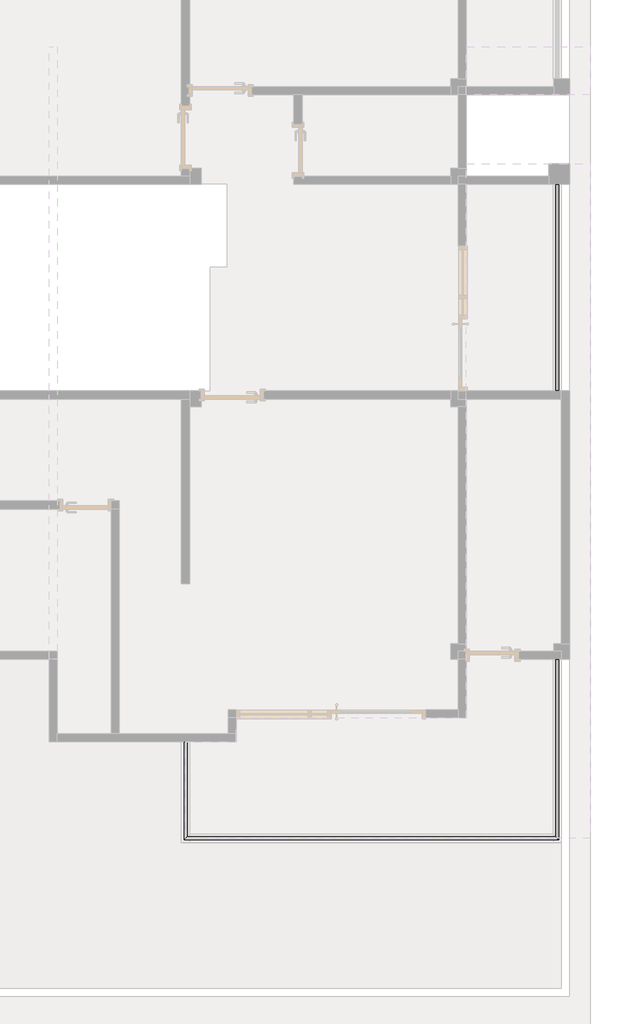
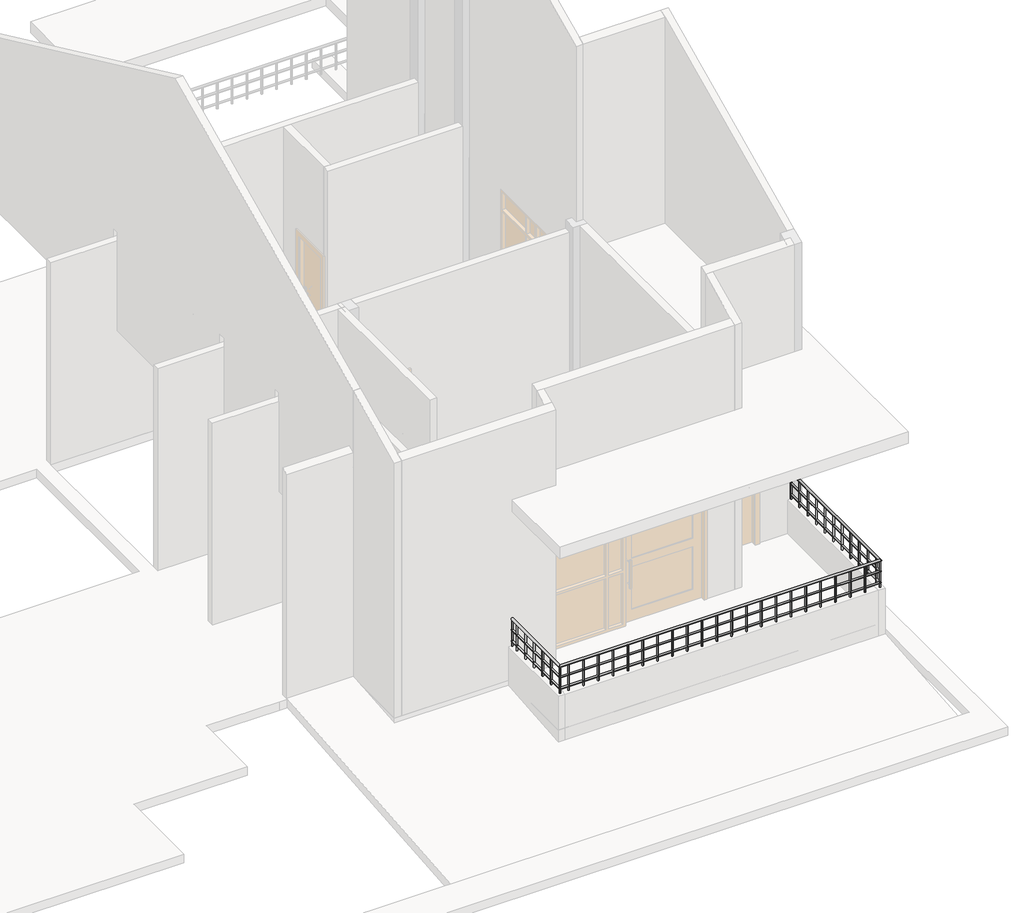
# One storey, part 5 of 6: 2 railings.
"""IFC4 building model written with IfcOpenShell, lengths in millimetres."""

from ifc_helpers import new_model, si_unit, point, frame, frame_2d, origin, place, context, project, spatial, circle_curve, ellipse_curve, trimmed, segment, composite_curve, outline, extrude, element, save
from ifc_brep_helpers import plane_surface, cylinder_surface, advanced_brep

model = new_model("IFC4")

# Units and contexts
model_context = context("Model", 3, world=origin())
ifc_project = project(units=[si_unit("LENGTHUNIT", "METRE", prefix="MILLI")], contexts=[model_context])

# Site, building, storey
site = spatial("IfcSite", under=ifc_project)
building = spatial("IfcBuilding", under=site)
storey = spatial("IfcBuildingStorey", under=building, Name="标高 2", Elevation=3900.0)

# Railings
placement = place(None, origin())
element("IfcRailing", 1, ObjectType="500 圆管", at=placement, inside=storey, context=model_context, shape_type="SweptSolid", body=[
    extrude(outline(composite_curve([segment(trimmed(circle_curve(frame_2d((4980.0, 9735.9706096)), 20.0), [point((4980.0, 9715.9706096))], [point((4980.0, 9755.9706096))], False, "CARTESIAN"), True, "CONTINUOUS"), segment(trimmed(circle_curve(frame_2d((4980.0, 9735.9706096)), 20.0), [point((4980.0, 9755.9706096))], [point((4980.0, 9715.9706096))], False, "CARTESIAN"), True, "CONTINUOUS")], self_intersect=False)), frame((0.0, 5888.7732284, 0.0), z_axis=(0.0, 1.0, 0.0), x_axis=(0.0, 0.0, 1.0)), (0.0, 0.0, 1.0), 3000.0),
    extrude(outline(composite_curve([segment(trimmed(circle_curve(frame_2d((4785.0, 9735.9706096)), 15.0), [point((4785.0, 9720.9706096))], [point((4785.0, 9750.9706096))], False, "CARTESIAN"), True, "CONTINUOUS"), segment(trimmed(circle_curve(frame_2d((4785.0, 9735.9706096)), 15.0), [point((4785.0, 9750.9706096))], [point((4785.0, 9720.9706096))], False, "CARTESIAN"), True, "CONTINUOUS")], self_intersect=False)), frame((0.0, 5888.7732284, 0.0), z_axis=(0.0, 1.0, 0.0), x_axis=(0.0, 0.0, 1.0)), (0.0, 0.0, 1.0), 3000.0),
    extrude(outline(composite_curve([segment(trimmed(circle_curve(frame_2d((4585.0, 9735.9706096)), 15.0), [point((4585.0, 9720.9706096))], [point((4585.0, 9750.9706096))], False, "CARTESIAN"), True, "CONTINUOUS"), segment(trimmed(circle_curve(frame_2d((4585.0, 9735.9706096)), 15.0), [point((4585.0, 9750.9706096))], [point((4585.0, 9720.9706096))], False, "CARTESIAN"), True, "CONTINUOUS")], self_intersect=False)), frame((0.0, 5888.7732284, 0.0), z_axis=(0.0, 1.0, 0.0), x_axis=(0.0, 0.0, 1.0)), (0.0, 0.0, 1.0), 3000.0),
    extrude(outline(composite_curve([segment(trimmed(circle_curve(frame_2d((9735.9706096, 6138.7732284)), 12.5), [point((9723.4706096, 6138.7732284))], [point((9748.4706096, 6138.7732284))], False, "CARTESIAN"), True, "CONTINUOUS"), segment(trimmed(circle_curve(frame_2d((9735.9706096, 6138.7732284)), 12.5), [point((9748.4706096, 6138.7732284))], [point((9723.4706096, 6138.7732284))], False, "CARTESIAN"), True, "CONTINUOUS")], self_intersect=False)), frame((0.0, 0.0, 4500.0), z_axis=(0.0, 0.0, 1.0), x_axis=(1.0, 0.0, 0.0)), (0.0, 0.0, 1.0), 460.0),
    extrude(outline(composite_curve([segment(trimmed(circle_curve(frame_2d((9735.9706096, 6388.7732284)), 12.5), [point((9723.4706096, 6388.7732284))], [point((9748.4706096, 6388.7732284))], False, "CARTESIAN"), True, "CONTINUOUS"), segment(trimmed(circle_curve(frame_2d((9735.9706096, 6388.7732284)), 12.5), [point((9748.4706096, 6388.7732284))], [point((9723.4706096, 6388.7732284))], False, "CARTESIAN"), True, "CONTINUOUS")], self_intersect=False)), frame((0.0, 0.0, 4500.0), z_axis=(0.0, 0.0, 1.0), x_axis=(1.0, 0.0, 0.0)), (0.0, 0.0, 1.0), 460.0),
    extrude(outline(composite_curve([segment(trimmed(circle_curve(frame_2d((9735.9706096, 6638.7732284)), 12.5), [point((9723.4706096, 6638.7732284))], [point((9748.4706096, 6638.7732284))], False, "CARTESIAN"), True, "CONTINUOUS"), segment(trimmed(circle_curve(frame_2d((9735.9706096, 6638.7732284)), 12.5), [point((9748.4706096, 6638.7732284))], [point((9723.4706096, 6638.7732284))], False, "CARTESIAN"), True, "CONTINUOUS")], self_intersect=False)), frame((0.0, 0.0, 4500.0), z_axis=(0.0, 0.0, 1.0), x_axis=(1.0, 0.0, 0.0)), (0.0, 0.0, 1.0), 460.0),
    extrude(outline(composite_curve([segment(trimmed(circle_curve(frame_2d((9735.9706096, 6888.7732284)), 12.5), [point((9723.4706096, 6888.7732284))], [point((9748.4706096, 6888.7732284))], False, "CARTESIAN"), True, "CONTINUOUS"), segment(trimmed(circle_curve(frame_2d((9735.9706096, 6888.7732284)), 12.5), [point((9748.4706096, 6888.7732284))], [point((9723.4706096, 6888.7732284))], False, "CARTESIAN"), True, "CONTINUOUS")], self_intersect=False)), frame((0.0, 0.0, 4500.0), z_axis=(0.0, 0.0, 1.0), x_axis=(1.0, 0.0, 0.0)), (0.0, 0.0, 1.0), 460.0),
    extrude(outline(composite_curve([segment(trimmed(circle_curve(frame_2d((9735.9706096, 7138.7732284)), 12.5), [point((9723.4706096, 7138.7732284))], [point((9748.4706096, 7138.7732284))], False, "CARTESIAN"), True, "CONTINUOUS"), segment(trimmed(circle_curve(frame_2d((9735.9706096, 7138.7732284)), 12.5), [point((9748.4706096, 7138.7732284))], [point((9723.4706096, 7138.7732284))], False, "CARTESIAN"), True, "CONTINUOUS")], self_intersect=False)), frame((0.0, 0.0, 4500.0), z_axis=(0.0, 0.0, 1.0), x_axis=(1.0, 0.0, 0.0)), (0.0, 0.0, 1.0), 460.0),
    extrude(outline(composite_curve([segment(trimmed(circle_curve(frame_2d((9735.9706096, 7388.7732284)), 12.5), [point((9723.4706096, 7388.7732284))], [point((9748.4706096, 7388.7732284))], False, "CARTESIAN"), True, "CONTINUOUS"), segment(trimmed(circle_curve(frame_2d((9735.9706096, 7388.7732284)), 12.5), [point((9748.4706096, 7388.7732284))], [point((9723.4706096, 7388.7732284))], False, "CARTESIAN"), True, "CONTINUOUS")], self_intersect=False)), frame((0.0, 0.0, 4500.0), z_axis=(0.0, 0.0, 1.0), x_axis=(1.0, 0.0, 0.0)), (0.0, 0.0, 1.0), 460.0),
    extrude(outline(composite_curve([segment(trimmed(circle_curve(frame_2d((9735.9706096, 7638.7732284)), 12.5), [point((9723.4706096, 7638.7732284))], [point((9748.4706096, 7638.7732284))], False, "CARTESIAN"), True, "CONTINUOUS"), segment(trimmed(circle_curve(frame_2d((9735.9706096, 7638.7732284)), 12.5), [point((9748.4706096, 7638.7732284))], [point((9723.4706096, 7638.7732284))], False, "CARTESIAN"), True, "CONTINUOUS")], self_intersect=False)), frame((0.0, 0.0, 4500.0), z_axis=(0.0, 0.0, 1.0), x_axis=(1.0, 0.0, 0.0)), (0.0, 0.0, 1.0), 460.0),
    extrude(outline(composite_curve([segment(trimmed(circle_curve(frame_2d((9735.9706096, 7888.7732284)), 12.5), [point((9723.4706096, 7888.7732284))], [point((9748.4706096, 7888.7732284))], False, "CARTESIAN"), True, "CONTINUOUS"), segment(trimmed(circle_curve(frame_2d((9735.9706096, 7888.7732284)), 12.5), [point((9748.4706096, 7888.7732284))], [point((9723.4706096, 7888.7732284))], False, "CARTESIAN"), True, "CONTINUOUS")], self_intersect=False)), frame((0.0, 0.0, 4500.0), z_axis=(0.0, 0.0, 1.0), x_axis=(1.0, 0.0, 0.0)), (0.0, 0.0, 1.0), 460.0),
    extrude(outline(composite_curve([segment(trimmed(circle_curve(frame_2d((9735.9706096, 8138.7732284)), 12.5), [point((9723.4706096, 8138.7732284))], [point((9748.4706096, 8138.7732284))], False, "CARTESIAN"), True, "CONTINUOUS"), segment(trimmed(circle_curve(frame_2d((9735.9706096, 8138.7732284)), 12.5), [point((9748.4706096, 8138.7732284))], [point((9723.4706096, 8138.7732284))], False, "CARTESIAN"), True, "CONTINUOUS")], self_intersect=False)), frame((0.0, 0.0, 4500.0), z_axis=(0.0, 0.0, 1.0), x_axis=(1.0, 0.0, 0.0)), (0.0, 0.0, 1.0), 460.0),
    extrude(outline(composite_curve([segment(trimmed(circle_curve(frame_2d((9735.9706096, 8388.7732284)), 12.5), [point((9723.4706096, 8388.7732284))], [point((9748.4706096, 8388.7732284))], False, "CARTESIAN"), True, "CONTINUOUS"), segment(trimmed(circle_curve(frame_2d((9735.9706096, 8388.7732284)), 12.5), [point((9748.4706096, 8388.7732284))], [point((9723.4706096, 8388.7732284))], False, "CARTESIAN"), True, "CONTINUOUS")], self_intersect=False)), frame((0.0, 0.0, 4500.0), z_axis=(0.0, 0.0, 1.0), x_axis=(1.0, 0.0, 0.0)), (0.0, 0.0, 1.0), 460.0),
    extrude(outline(composite_curve([segment(trimmed(circle_curve(frame_2d((9735.9706096, 8638.7732284)), 12.5), [point((9723.4706096, 8638.7732284))], [point((9748.4706096, 8638.7732284))], False, "CARTESIAN"), True, "CONTINUOUS"), segment(trimmed(circle_curve(frame_2d((9735.9706096, 8638.7732284)), 12.5), [point((9748.4706096, 8638.7732284))], [point((9723.4706096, 8638.7732284))], False, "CARTESIAN"), True, "CONTINUOUS")], self_intersect=False)), frame((0.0, 0.0, 4500.0), z_axis=(0.0, 0.0, 1.0), x_axis=(1.0, 0.0, 0.0)), (0.0, 0.0, 1.0), 460.0),
    extrude(outline(composite_curve([segment(trimmed(circle_curve(frame_2d((9735.9706096, 5901.2732284)), 12.5), [point((9723.4706096, 5901.2732284))], [point((9748.4706096, 5901.2732284))], False, "CARTESIAN"), True, "CONTINUOUS"), segment(trimmed(circle_curve(frame_2d((9735.9706096, 5901.2732284)), 12.5), [point((9748.4706096, 5901.2732284))], [point((9723.4706096, 5901.2732284))], False, "CARTESIAN"), True, "CONTINUOUS")], self_intersect=False)), frame((0.0, 0.0, 4500.0), z_axis=(0.0, 0.0, 1.0), x_axis=(1.0, 0.0, 0.0)), (0.0, 0.0, 1.0), 460.0),
    extrude(outline(composite_curve([segment(trimmed(circle_curve(frame_2d((9735.9706096, 8876.2732284)), 12.5), [point((9723.4706096, 8876.2732284))], [point((9748.4706096, 8876.2732284))], False, "CARTESIAN"), True, "CONTINUOUS"), segment(trimmed(circle_curve(frame_2d((9735.9706096, 8876.2732284)), 12.5), [point((9748.4706096, 8876.2732284))], [point((9723.4706096, 8876.2732284))], False, "CARTESIAN"), True, "CONTINUOUS")], self_intersect=False)), frame((0.0, 0.0, 4500.0), z_axis=(0.0, 0.0, 1.0), x_axis=(1.0, 0.0, 0.0)), (0.0, 0.0, 1.0), 460.0),
])
element("IfcRailing", 2, ObjectType="500 圆管", at=placement, inside=storey, context=model_context, shape_type="SolidModel", body=[
    advanced_brep(
    [(9715.9706096, 1988.7732284, 4980.0), (9755.9706096, 1988.7732284, 4980.0), (9715.9706096, -591.2267716, 4980.0), (9755.9706096, -631.2267716, 4980.0), (4358.4706096, -591.2267716, 4980.0), (4318.4706096, -631.2267716, 4980.0), (4358.4706096, 788.7732284, 4980.0), (4318.4706096, 788.7732284, 4980.0)],
    [
        (0, 1, circle_curve(frame((9735.9706096, 1988.7732284, 4980.0), z_axis=(0.0, 1.0, 0.0), x_axis=(1.0, 0.0, 0.0)), 20.0)),
        (1, 0, circle_curve(frame((9735.9706096, 1988.7732284, 4980.0), z_axis=(0.0, 1.0, 0.0), x_axis=(1.0, 0.0, 0.0)), 20.0)),
        (0, 2),
        (2, 3, ellipse_curve(frame((9735.9706096, -611.2267716, 4980.0), z_axis=(0.7071067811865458, 0.7071067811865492, 0.0), x_axis=(-0.7071067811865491, 0.7071067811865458, 0.0)), 28.2842712, 20.0)),
        (3, 1),
        (3, 2, ellipse_curve(frame((9735.9706096, -611.2267716, 4980.0), z_axis=(0.7071067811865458, 0.7071067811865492, 0.0), x_axis=(-0.7071067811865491, 0.7071067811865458, 0.0)), 28.2842712, 20.0)),
        (2, 4),
        (4, 5, ellipse_curve(frame((4338.4706096, -611.2267716, 4980.0), z_axis=(0.7071067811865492, -0.7071067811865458, 0.0), x_axis=(0.7071067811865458, 0.7071067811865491, 0.0)), 28.2842712, 20.0)),
        (5, 3),
        (5, 4, ellipse_curve(frame((4338.4706096, -611.2267716, 4980.0), z_axis=(0.7071067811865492, -0.7071067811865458, 0.0), x_axis=(0.7071067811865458, 0.7071067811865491, 0.0)), 28.2842712, 20.0)),
        (6, 7, circle_curve(frame((4338.4706096, 788.7732284, 4980.0), z_axis=(0.0, 1.0, 0.0), x_axis=(-1.0, 0.0, 0.0)), 20.0)),
        (7, 6, circle_curve(frame((4338.4706096, 788.7732284, 4980.0), z_axis=(0.0, 1.0, 0.0), x_axis=(-1.0, 0.0, 0.0)), 20.0)),
        (4, 6),
        (7, 5),
    ],
    [
        plane_surface(frame((9735.9706096, 1988.7732284, 5000.0), z_axis=(0.0, 1.0, 0.0), x_axis=(0.0, 0.0, -1.0))),
        cylinder_surface(frame((9735.9706096, 1988.7732284, 4980.0), z_axis=(0.0, 1.0, 0.0), x_axis=(1.0, 0.0, 0.0)), 20.0),
        cylinder_surface(frame((9735.9706096, -611.2267716, 4980.0), z_axis=(1.0, 0.0, 0.0), x_axis=(0.0, -1.0, 0.0)), 20.0),
        plane_surface(frame((4338.4706096, 788.7732284, 5000.0), z_axis=(0.0, 1.0, 0.0), x_axis=(0.0, 0.0, 1.0))),
        cylinder_surface(frame((4338.4706096, -611.2267716, 4980.0), z_axis=(0.0, -1.0, 0.0), x_axis=(-1.0, 0.0, 0.0)), 20.0),
    ],
    [
        (0, [[1, 2]]),
        (1, [[-1, 3, 4, 5]]),
        (1, [[-2, -5, 6, -3]]),
        (2, [[-4, 7, 8, 9]]),
        (2, [[-6, -9, 10, -7]]),
        (3, [[11, 12]]),
        (4, [[-8, 13, -12, 14]]),
        (4, [[-10, -14, -11, -13]]),
    ],
),
    advanced_brep(
    [(9720.9706096, 1988.7732284, 4785.0), (9750.9706096, 1988.7732284, 4785.0), (9750.9706096, -626.2267716, 4785.0), (9720.9706096, -596.2267716, 4785.0), (4323.4706096, -626.2267716, 4785.0), (4353.4706096, -596.2267716, 4785.0), (4353.4706096, 788.7732284, 4785.0), (4323.4706096, 788.7732284, 4785.0)],
    [
        (0, 1, circle_curve(frame((9735.9706096, 1988.7732284, 4785.0), z_axis=(0.0, 1.0, 0.0), x_axis=(1.0, 0.0, 0.0)), 15.0)),
        (1, 0, circle_curve(frame((9735.9706096, 1988.7732284, 4785.0), z_axis=(0.0, 1.0, 0.0), x_axis=(1.0, 0.0, 0.0)), 15.0)),
        (1, 2),
        (2, 3, ellipse_curve(frame((9735.9706096, -611.2267716, 4785.0), z_axis=(0.7071067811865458, 0.7071067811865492, 0.0), x_axis=(-0.7071067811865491, 0.7071067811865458, 0.0)), 21.2132034, 15.0)),
        (3, 0),
        (3, 2, ellipse_curve(frame((9735.9706096, -611.2267716, 4785.0), z_axis=(0.7071067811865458, 0.7071067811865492, 0.0), x_axis=(-0.7071067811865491, 0.7071067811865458, 0.0)), 21.2132034, 15.0)),
        (2, 4),
        (4, 5, ellipse_curve(frame((4338.4706096, -611.2267716, 4785.0), z_axis=(0.7071067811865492, -0.7071067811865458, 0.0), x_axis=(0.7071067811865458, 0.7071067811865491, 0.0)), 21.2132034, 15.0)),
        (5, 3),
        (5, 4, ellipse_curve(frame((4338.4706096, -611.2267716, 4785.0), z_axis=(0.7071067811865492, -0.7071067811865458, 0.0), x_axis=(0.7071067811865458, 0.7071067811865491, 0.0)), 21.2132034, 15.0)),
        (6, 7, circle_curve(frame((4338.4706096, 788.7732284, 4785.0), z_axis=(0.0, 1.0, 0.0), x_axis=(-1.0, 0.0, 0.0)), 15.0)),
        (7, 6, circle_curve(frame((4338.4706096, 788.7732284, 4785.0), z_axis=(0.0, 1.0, 0.0), x_axis=(-1.0, 0.0, 0.0)), 15.0)),
        (4, 7),
        (6, 5),
    ],
    [
        plane_surface(frame((9735.9706096, 1988.7732284, 4800.0), z_axis=(0.0, 1.0, 0.0), x_axis=(0.0, 0.0, -1.0))),
        cylinder_surface(frame((9735.9706096, 1988.7732284, 4785.0), z_axis=(0.0, 1.0, 0.0), x_axis=(1.0, 0.0, 0.0)), 15.0),
        cylinder_surface(frame((9735.9706096, -611.2267716, 4785.0), z_axis=(1.0, 0.0, 0.0), x_axis=(0.0, -1.0, 0.0)), 15.0),
        plane_surface(frame((4338.4706096, 788.7732284, 4800.0), z_axis=(0.0, 1.0, 0.0), x_axis=(0.0, 0.0, 1.0))),
        cylinder_surface(frame((4338.4706096, -611.2267716, 4785.0), z_axis=(0.0, -1.0, 0.0), x_axis=(-1.0, 0.0, 0.0)), 15.0),
    ],
    [
        (0, [[1, 2]]),
        (1, [[-2, 3, 4, 5]]),
        (1, [[-1, -5, 6, -3]]),
        (2, [[-4, 7, 8, 9]]),
        (2, [[-6, -9, 10, -7]]),
        (3, [[11, 12]]),
        (4, [[-8, 13, -11, 14]]),
        (4, [[-10, -14, -12, -13]]),
    ],
),
    advanced_brep(
    [(9720.9706096, 1988.7732284, 4585.0), (9750.9706096, 1988.7732284, 4585.0), (9750.9706096, -626.2267716, 4585.0), (9720.9706096, -596.2267716, 4585.0), (4323.4706096, -626.2267716, 4585.0), (4353.4706096, -596.2267716, 4585.0), (4353.4706096, 788.7732284, 4585.0), (4323.4706096, 788.7732284, 4585.0)],
    [
        (0, 1, circle_curve(frame((9735.9706096, 1988.7732284, 4585.0), z_axis=(0.0, 1.0, 0.0), x_axis=(1.0, 0.0, 0.0)), 15.0)),
        (1, 0, circle_curve(frame((9735.9706096, 1988.7732284, 4585.0), z_axis=(0.0, 1.0, 0.0), x_axis=(1.0, 0.0, 0.0)), 15.0)),
        (1, 2),
        (2, 3, ellipse_curve(frame((9735.9706096, -611.2267716, 4585.0), z_axis=(0.7071067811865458, 0.7071067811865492, 0.0), x_axis=(-0.7071067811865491, 0.7071067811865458, 0.0)), 21.2132034, 15.0)),
        (3, 0),
        (3, 2, ellipse_curve(frame((9735.9706096, -611.2267716, 4585.0), z_axis=(0.7071067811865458, 0.7071067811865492, 0.0), x_axis=(-0.7071067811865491, 0.7071067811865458, 0.0)), 21.2132034, 15.0)),
        (2, 4),
        (4, 5, ellipse_curve(frame((4338.4706096, -611.2267716, 4585.0), z_axis=(0.7071067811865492, -0.7071067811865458, 0.0), x_axis=(0.7071067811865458, 0.7071067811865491, 0.0)), 21.2132034, 15.0)),
        (5, 3),
        (5, 4, ellipse_curve(frame((4338.4706096, -611.2267716, 4585.0), z_axis=(0.7071067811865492, -0.7071067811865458, 0.0), x_axis=(0.7071067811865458, 0.7071067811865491, 0.0)), 21.2132034, 15.0)),
        (6, 7, circle_curve(frame((4338.4706096, 788.7732284, 4585.0), z_axis=(0.0, 1.0, 0.0), x_axis=(-1.0, 0.0, 0.0)), 15.0)),
        (7, 6, circle_curve(frame((4338.4706096, 788.7732284, 4585.0), z_axis=(0.0, 1.0, 0.0), x_axis=(-1.0, 0.0, 0.0)), 15.0)),
        (4, 7),
        (6, 5),
    ],
    [
        plane_surface(frame((9735.9706096, 1988.7732284, 4600.0), z_axis=(0.0, 1.0, 0.0), x_axis=(0.0, 0.0, -1.0))),
        cylinder_surface(frame((9735.9706096, 1988.7732284, 4585.0), z_axis=(0.0, 1.0, 0.0), x_axis=(1.0, 0.0, 0.0)), 15.0),
        cylinder_surface(frame((9735.9706096, -611.2267716, 4585.0), z_axis=(1.0, 0.0, 0.0), x_axis=(0.0, -1.0, 0.0)), 15.0),
        plane_surface(frame((4338.4706096, 788.7732284, 4600.0), z_axis=(0.0, 1.0, 0.0), x_axis=(0.0, 0.0, 1.0))),
        cylinder_surface(frame((4338.4706096, -611.2267716, 4585.0), z_axis=(0.0, -1.0, 0.0), x_axis=(-1.0, 0.0, 0.0)), 15.0),
    ],
    [
        (0, [[1, 2]]),
        (1, [[-2, 3, 4, 5]]),
        (1, [[-1, -5, 6, -3]]),
        (2, [[-4, 7, 8, 9]]),
        (2, [[-6, -9, 10, -7]]),
        (3, [[11, 12]]),
        (4, [[-8, 13, -11, 14]]),
        (4, [[-10, -14, -12, -13]]),
    ],
),
    extrude(outline(composite_curve([segment(trimmed(circle_curve(frame_2d((4338.4706096, 638.7732284)), 12.5), [point((4350.9706096, 638.7732284))], [point((4325.9706096, 638.7732284))], False, "CARTESIAN"), True, "CONTINUOUS"), segment(trimmed(circle_curve(frame_2d((4338.4706096, 638.7732284)), 12.5), [point((4325.9706096, 638.7732284))], [point((4350.9706096, 638.7732284))], False, "CARTESIAN"), True, "CONTINUOUS")], self_intersect=False)), frame((0.0, 0.0, 4500.0), z_axis=(0.0, 0.0, 1.0), x_axis=(1.0, 0.0, 0.0)), (0.0, 0.0, 1.0), 460.0),
    extrude(outline(composite_curve([segment(trimmed(circle_curve(frame_2d((4338.4706096, 388.7732284)), 12.5), [point((4350.9706096, 388.7732284))], [point((4325.9706096, 388.7732284))], False, "CARTESIAN"), True, "CONTINUOUS"), segment(trimmed(circle_curve(frame_2d((4338.4706096, 388.7732284)), 12.5), [point((4325.9706096, 388.7732284))], [point((4350.9706096, 388.7732284))], False, "CARTESIAN"), True, "CONTINUOUS")], self_intersect=False)), frame((0.0, 0.0, 4500.0), z_axis=(0.0, 0.0, 1.0), x_axis=(1.0, 0.0, 0.0)), (0.0, 0.0, 1.0), 460.0),
    extrude(outline(composite_curve([segment(trimmed(circle_curve(frame_2d((4338.4706096, 138.7732284)), 12.5), [point((4350.9706096, 138.7732284))], [point((4325.9706096, 138.7732284))], False, "CARTESIAN"), True, "CONTINUOUS"), segment(trimmed(circle_curve(frame_2d((4338.4706096, 138.7732284)), 12.5), [point((4325.9706096, 138.7732284))], [point((4350.9706096, 138.7732284))], False, "CARTESIAN"), True, "CONTINUOUS")], self_intersect=False)), frame((0.0, 0.0, 4500.0), z_axis=(0.0, 0.0, 1.0), x_axis=(1.0, 0.0, 0.0)), (0.0, 0.0, 1.0), 460.0),
    extrude(outline(composite_curve([segment(trimmed(circle_curve(frame_2d((4338.4706096, -111.2267716)), 12.5), [point((4350.9706096, -111.2267716))], [point((4325.9706096, -111.2267716))], False, "CARTESIAN"), True, "CONTINUOUS"), segment(trimmed(circle_curve(frame_2d((4338.4706096, -111.2267716)), 12.5), [point((4325.9706096, -111.2267716))], [point((4350.9706096, -111.2267716))], False, "CARTESIAN"), True, "CONTINUOUS")], self_intersect=False)), frame((0.0, 0.0, 4500.0), z_axis=(0.0, 0.0, 1.0), x_axis=(1.0, 0.0, 0.0)), (0.0, 0.0, 1.0), 460.0),
    extrude(outline(composite_curve([segment(trimmed(circle_curve(frame_2d((4338.4706096, -361.2267716)), 12.5), [point((4350.9706096, -361.2267716))], [point((4325.9706096, -361.2267716))], False, "CARTESIAN"), True, "CONTINUOUS"), segment(trimmed(circle_curve(frame_2d((4338.4706096, -361.2267716)), 12.5), [point((4325.9706096, -361.2267716))], [point((4350.9706096, -361.2267716))], False, "CARTESIAN"), True, "CONTINUOUS")], self_intersect=False)), frame((0.0, 0.0, 4500.0), z_axis=(0.0, 0.0, 1.0), x_axis=(1.0, 0.0, 0.0)), (0.0, 0.0, 1.0), 460.0),
    extrude(outline(composite_curve([segment(trimmed(circle_curve(frame_2d((4485.9706096, -611.2267716)), 12.5), [point((4485.9706096, -598.7267716))], [point((4485.9706096, -623.7267716))], False, "CARTESIAN"), True, "CONTINUOUS"), segment(trimmed(circle_curve(frame_2d((4485.9706096, -611.2267716)), 12.5), [point((4485.9706096, -623.7267716))], [point((4485.9706096, -598.7267716))], False, "CARTESIAN"), True, "CONTINUOUS")], self_intersect=False)), frame((0.0, 0.0, 4500.0), z_axis=(0.0, 0.0, 1.0), x_axis=(1.0, 0.0, 0.0)), (0.0, 0.0, 1.0), 460.0),
    extrude(outline(composite_curve([segment(trimmed(circle_curve(frame_2d((4735.9706096, -611.2267716)), 12.5), [point((4735.9706096, -598.7267716))], [point((4735.9706096, -623.7267716))], False, "CARTESIAN"), True, "CONTINUOUS"), segment(trimmed(circle_curve(frame_2d((4735.9706096, -611.2267716)), 12.5), [point((4735.9706096, -623.7267716))], [point((4735.9706096, -598.7267716))], False, "CARTESIAN"), True, "CONTINUOUS")], self_intersect=False)), frame((0.0, 0.0, 4500.0), z_axis=(0.0, 0.0, 1.0), x_axis=(1.0, 0.0, 0.0)), (0.0, 0.0, 1.0), 460.0),
    extrude(outline(composite_curve([segment(trimmed(circle_curve(frame_2d((4985.9706096, -611.2267716)), 12.5), [point((4985.9706096, -598.7267716))], [point((4985.9706096, -623.7267716))], False, "CARTESIAN"), True, "CONTINUOUS"), segment(trimmed(circle_curve(frame_2d((4985.9706096, -611.2267716)), 12.5), [point((4985.9706096, -623.7267716))], [point((4985.9706096, -598.7267716))], False, "CARTESIAN"), True, "CONTINUOUS")], self_intersect=False)), frame((0.0, 0.0, 4500.0), z_axis=(0.0, 0.0, 1.0), x_axis=(1.0, 0.0, 0.0)), (0.0, 0.0, 1.0), 460.0),
    extrude(outline(composite_curve([segment(trimmed(circle_curve(frame_2d((5235.9706096, -611.2267716)), 12.5), [point((5235.9706096, -598.7267716))], [point((5235.9706096, -623.7267716))], False, "CARTESIAN"), True, "CONTINUOUS"), segment(trimmed(circle_curve(frame_2d((5235.9706096, -611.2267716)), 12.5), [point((5235.9706096, -623.7267716))], [point((5235.9706096, -598.7267716))], False, "CARTESIAN"), True, "CONTINUOUS")], self_intersect=False)), frame((0.0, 0.0, 4500.0), z_axis=(0.0, 0.0, 1.0), x_axis=(1.0, 0.0, 0.0)), (0.0, 0.0, 1.0), 460.0),
    extrude(outline(composite_curve([segment(trimmed(circle_curve(frame_2d((5485.9706096, -611.2267716)), 12.5), [point((5485.9706096, -598.7267716))], [point((5485.9706096, -623.7267716))], False, "CARTESIAN"), True, "CONTINUOUS"), segment(trimmed(circle_curve(frame_2d((5485.9706096, -611.2267716)), 12.5), [point((5485.9706096, -623.7267716))], [point((5485.9706096, -598.7267716))], False, "CARTESIAN"), True, "CONTINUOUS")], self_intersect=False)), frame((0.0, 0.0, 4500.0), z_axis=(0.0, 0.0, 1.0), x_axis=(1.0, 0.0, 0.0)), (0.0, 0.0, 1.0), 460.0),
    extrude(outline(composite_curve([segment(trimmed(circle_curve(frame_2d((5735.9706096, -611.2267716)), 12.5), [point((5735.9706096, -598.7267716))], [point((5735.9706096, -623.7267716))], False, "CARTESIAN"), True, "CONTINUOUS"), segment(trimmed(circle_curve(frame_2d((5735.9706096, -611.2267716)), 12.5), [point((5735.9706096, -623.7267716))], [point((5735.9706096, -598.7267716))], False, "CARTESIAN"), True, "CONTINUOUS")], self_intersect=False)), frame((0.0, 0.0, 4500.0), z_axis=(0.0, 0.0, 1.0), x_axis=(1.0, 0.0, 0.0)), (0.0, 0.0, 1.0), 460.0),
    extrude(outline(composite_curve([segment(trimmed(circle_curve(frame_2d((5985.9706096, -611.2267716)), 12.5), [point((5985.9706096, -598.7267716))], [point((5985.9706096, -623.7267716))], False, "CARTESIAN"), True, "CONTINUOUS"), segment(trimmed(circle_curve(frame_2d((5985.9706096, -611.2267716)), 12.5), [point((5985.9706096, -623.7267716))], [point((5985.9706096, -598.7267716))], False, "CARTESIAN"), True, "CONTINUOUS")], self_intersect=False)), frame((0.0, 0.0, 4500.0), z_axis=(0.0, 0.0, 1.0), x_axis=(1.0, 0.0, 0.0)), (0.0, 0.0, 1.0), 460.0),
    extrude(outline(composite_curve([segment(trimmed(circle_curve(frame_2d((6235.9706096, -611.2267716)), 12.5), [point((6235.9706096, -598.7267716))], [point((6235.9706096, -623.7267716))], False, "CARTESIAN"), True, "CONTINUOUS"), segment(trimmed(circle_curve(frame_2d((6235.9706096, -611.2267716)), 12.5), [point((6235.9706096, -623.7267716))], [point((6235.9706096, -598.7267716))], False, "CARTESIAN"), True, "CONTINUOUS")], self_intersect=False)), frame((0.0, 0.0, 4500.0), z_axis=(0.0, 0.0, 1.0), x_axis=(1.0, 0.0, 0.0)), (0.0, 0.0, 1.0), 460.0),
    extrude(outline(composite_curve([segment(trimmed(circle_curve(frame_2d((6485.9706096, -611.2267716)), 12.5), [point((6485.9706096, -598.7267716))], [point((6485.9706096, -623.7267716))], False, "CARTESIAN"), True, "CONTINUOUS"), segment(trimmed(circle_curve(frame_2d((6485.9706096, -611.2267716)), 12.5), [point((6485.9706096, -623.7267716))], [point((6485.9706096, -598.7267716))], False, "CARTESIAN"), True, "CONTINUOUS")], self_intersect=False)), frame((0.0, 0.0, 4500.0), z_axis=(0.0, 0.0, 1.0), x_axis=(1.0, 0.0, 0.0)), (0.0, 0.0, 1.0), 460.0),
    extrude(outline(composite_curve([segment(trimmed(circle_curve(frame_2d((6735.9706096, -611.2267716)), 12.5), [point((6735.9706096, -598.7267716))], [point((6735.9706096, -623.7267716))], False, "CARTESIAN"), True, "CONTINUOUS"), segment(trimmed(circle_curve(frame_2d((6735.9706096, -611.2267716)), 12.5), [point((6735.9706096, -623.7267716))], [point((6735.9706096, -598.7267716))], False, "CARTESIAN"), True, "CONTINUOUS")], self_intersect=False)), frame((0.0, 0.0, 4500.0), z_axis=(0.0, 0.0, 1.0), x_axis=(1.0, 0.0, 0.0)), (0.0, 0.0, 1.0), 460.0),
    extrude(outline(composite_curve([segment(trimmed(circle_curve(frame_2d((6985.9706096, -611.2267716)), 12.5), [point((6985.9706096, -598.7267716))], [point((6985.9706096, -623.7267716))], False, "CARTESIAN"), True, "CONTINUOUS"), segment(trimmed(circle_curve(frame_2d((6985.9706096, -611.2267716)), 12.5), [point((6985.9706096, -623.7267716))], [point((6985.9706096, -598.7267716))], False, "CARTESIAN"), True, "CONTINUOUS")], self_intersect=False)), frame((0.0, 0.0, 4500.0), z_axis=(0.0, 0.0, 1.0), x_axis=(1.0, 0.0, 0.0)), (0.0, 0.0, 1.0), 460.0),
    extrude(outline(composite_curve([segment(trimmed(circle_curve(frame_2d((7235.9706096, -611.2267716)), 12.5), [point((7235.9706096, -598.7267716))], [point((7235.9706096, -623.7267716))], False, "CARTESIAN"), True, "CONTINUOUS"), segment(trimmed(circle_curve(frame_2d((7235.9706096, -611.2267716)), 12.5), [point((7235.9706096, -623.7267716))], [point((7235.9706096, -598.7267716))], False, "CARTESIAN"), True, "CONTINUOUS")], self_intersect=False)), frame((0.0, 0.0, 4500.0), z_axis=(0.0, 0.0, 1.0), x_axis=(1.0, 0.0, 0.0)), (0.0, 0.0, 1.0), 460.0),
    extrude(outline(composite_curve([segment(trimmed(circle_curve(frame_2d((7485.9706096, -611.2267716)), 12.5), [point((7485.9706096, -598.7267716))], [point((7485.9706096, -623.7267716))], False, "CARTESIAN"), True, "CONTINUOUS"), segment(trimmed(circle_curve(frame_2d((7485.9706096, -611.2267716)), 12.5), [point((7485.9706096, -623.7267716))], [point((7485.9706096, -598.7267716))], False, "CARTESIAN"), True, "CONTINUOUS")], self_intersect=False)), frame((0.0, 0.0, 4500.0), z_axis=(0.0, 0.0, 1.0), x_axis=(1.0, 0.0, 0.0)), (0.0, 0.0, 1.0), 460.0),
    extrude(outline(composite_curve([segment(trimmed(circle_curve(frame_2d((7735.9706096, -611.2267716)), 12.5), [point((7735.9706096, -598.7267716))], [point((7735.9706096, -623.7267716))], False, "CARTESIAN"), True, "CONTINUOUS"), segment(trimmed(circle_curve(frame_2d((7735.9706096, -611.2267716)), 12.5), [point((7735.9706096, -623.7267716))], [point((7735.9706096, -598.7267716))], False, "CARTESIAN"), True, "CONTINUOUS")], self_intersect=False)), frame((0.0, 0.0, 4500.0), z_axis=(0.0, 0.0, 1.0), x_axis=(1.0, 0.0, 0.0)), (0.0, 0.0, 1.0), 460.0),
    extrude(outline(composite_curve([segment(trimmed(circle_curve(frame_2d((7985.9706096, -611.2267716)), 12.5), [point((7985.9706096, -598.7267716))], [point((7985.9706096, -623.7267716))], False, "CARTESIAN"), True, "CONTINUOUS"), segment(trimmed(circle_curve(frame_2d((7985.9706096, -611.2267716)), 12.5), [point((7985.9706096, -623.7267716))], [point((7985.9706096, -598.7267716))], False, "CARTESIAN"), True, "CONTINUOUS")], self_intersect=False)), frame((0.0, 0.0, 4500.0), z_axis=(0.0, 0.0, 1.0), x_axis=(1.0, 0.0, 0.0)), (0.0, 0.0, 1.0), 460.0),
    extrude(outline(composite_curve([segment(trimmed(circle_curve(frame_2d((8235.9706096, -611.2267716)), 12.5), [point((8235.9706096, -598.7267716))], [point((8235.9706096, -623.7267716))], False, "CARTESIAN"), True, "CONTINUOUS"), segment(trimmed(circle_curve(frame_2d((8235.9706096, -611.2267716)), 12.5), [point((8235.9706096, -623.7267716))], [point((8235.9706096, -598.7267716))], False, "CARTESIAN"), True, "CONTINUOUS")], self_intersect=False)), frame((0.0, 0.0, 4500.0), z_axis=(0.0, 0.0, 1.0), x_axis=(1.0, 0.0, 0.0)), (0.0, 0.0, 1.0), 460.0),
    extrude(outline(composite_curve([segment(trimmed(circle_curve(frame_2d((8485.9706096, -611.2267716)), 12.5), [point((8485.9706096, -598.7267716))], [point((8485.9706096, -623.7267716))], False, "CARTESIAN"), True, "CONTINUOUS"), segment(trimmed(circle_curve(frame_2d((8485.9706096, -611.2267716)), 12.5), [point((8485.9706096, -623.7267716))], [point((8485.9706096, -598.7267716))], False, "CARTESIAN"), True, "CONTINUOUS")], self_intersect=False)), frame((0.0, 0.0, 4500.0), z_axis=(0.0, 0.0, 1.0), x_axis=(1.0, 0.0, 0.0)), (0.0, 0.0, 1.0), 460.0),
    extrude(outline(composite_curve([segment(trimmed(circle_curve(frame_2d((8735.9706096, -611.2267716)), 12.5), [point((8735.9706096, -598.7267716))], [point((8735.9706096, -623.7267716))], False, "CARTESIAN"), True, "CONTINUOUS"), segment(trimmed(circle_curve(frame_2d((8735.9706096, -611.2267716)), 12.5), [point((8735.9706096, -623.7267716))], [point((8735.9706096, -598.7267716))], False, "CARTESIAN"), True, "CONTINUOUS")], self_intersect=False)), frame((0.0, 0.0, 4500.0), z_axis=(0.0, 0.0, 1.0), x_axis=(1.0, 0.0, 0.0)), (0.0, 0.0, 1.0), 460.0),
    extrude(outline(composite_curve([segment(trimmed(circle_curve(frame_2d((8985.9706096, -611.2267716)), 12.5), [point((8985.9706096, -598.7267716))], [point((8985.9706096, -623.7267716))], False, "CARTESIAN"), True, "CONTINUOUS"), segment(trimmed(circle_curve(frame_2d((8985.9706096, -611.2267716)), 12.5), [point((8985.9706096, -623.7267716))], [point((8985.9706096, -598.7267716))], False, "CARTESIAN"), True, "CONTINUOUS")], self_intersect=False)), frame((0.0, 0.0, 4500.0), z_axis=(0.0, 0.0, 1.0), x_axis=(1.0, 0.0, 0.0)), (0.0, 0.0, 1.0), 460.0),
    extrude(outline(composite_curve([segment(trimmed(circle_curve(frame_2d((9235.9706096, -611.2267716)), 12.5), [point((9235.9706096, -598.7267716))], [point((9235.9706096, -623.7267716))], False, "CARTESIAN"), True, "CONTINUOUS"), segment(trimmed(circle_curve(frame_2d((9235.9706096, -611.2267716)), 12.5), [point((9235.9706096, -623.7267716))], [point((9235.9706096, -598.7267716))], False, "CARTESIAN"), True, "CONTINUOUS")], self_intersect=False)), frame((0.0, 0.0, 4500.0), z_axis=(0.0, 0.0, 1.0), x_axis=(1.0, 0.0, 0.0)), (0.0, 0.0, 1.0), 460.0),
    extrude(outline(composite_curve([segment(trimmed(circle_curve(frame_2d((9485.9706096, -611.2267716)), 12.5), [point((9485.9706096, -598.7267716))], [point((9485.9706096, -623.7267716))], False, "CARTESIAN"), True, "CONTINUOUS"), segment(trimmed(circle_curve(frame_2d((9485.9706096, -611.2267716)), 12.5), [point((9485.9706096, -623.7267716))], [point((9485.9706096, -598.7267716))], False, "CARTESIAN"), True, "CONTINUOUS")], self_intersect=False)), frame((0.0, 0.0, 4500.0), z_axis=(0.0, 0.0, 1.0), x_axis=(1.0, 0.0, 0.0)), (0.0, 0.0, 1.0), 460.0),
    extrude(outline(composite_curve([segment(trimmed(circle_curve(frame_2d((9735.9706096, -511.2267716)), 12.5), [point((9723.4706096, -511.2267716))], [point((9748.4706096, -511.2267716))], False, "CARTESIAN"), True, "CONTINUOUS"), segment(trimmed(circle_curve(frame_2d((9735.9706096, -511.2267716)), 12.5), [point((9748.4706096, -511.2267716))], [point((9723.4706096, -511.2267716))], False, "CARTESIAN"), True, "CONTINUOUS")], self_intersect=False)), frame((0.0, 0.0, 4500.0), z_axis=(0.0, 0.0, 1.0), x_axis=(1.0, 0.0, 0.0)), (0.0, 0.0, 1.0), 460.0),
    extrude(outline(composite_curve([segment(trimmed(circle_curve(frame_2d((9735.9706096, -261.2267716)), 12.5), [point((9723.4706096, -261.2267716))], [point((9748.4706096, -261.2267716))], False, "CARTESIAN"), True, "CONTINUOUS"), segment(trimmed(circle_curve(frame_2d((9735.9706096, -261.2267716)), 12.5), [point((9748.4706096, -261.2267716))], [point((9723.4706096, -261.2267716))], False, "CARTESIAN"), True, "CONTINUOUS")], self_intersect=False)), frame((0.0, 0.0, 4500.0), z_axis=(0.0, 0.0, 1.0), x_axis=(1.0, 0.0, 0.0)), (0.0, 0.0, 1.0), 460.0),
    extrude(outline(composite_curve([segment(trimmed(circle_curve(frame_2d((9735.9706096, -11.2267716)), 12.5), [point((9723.4706096, -11.2267716))], [point((9748.4706096, -11.2267716))], False, "CARTESIAN"), True, "CONTINUOUS"), segment(trimmed(circle_curve(frame_2d((9735.9706096, -11.2267716)), 12.5), [point((9748.4706096, -11.2267716))], [point((9723.4706096, -11.2267716))], False, "CARTESIAN"), True, "CONTINUOUS")], self_intersect=False)), frame((0.0, 0.0, 4500.0), z_axis=(0.0, 0.0, 1.0), x_axis=(1.0, 0.0, 0.0)), (0.0, 0.0, 1.0), 460.0),
    extrude(outline(composite_curve([segment(trimmed(circle_curve(frame_2d((9735.9706096, 238.7732284)), 12.5), [point((9723.4706096, 238.7732284))], [point((9748.4706096, 238.7732284))], False, "CARTESIAN"), True, "CONTINUOUS"), segment(trimmed(circle_curve(frame_2d((9735.9706096, 238.7732284)), 12.5), [point((9748.4706096, 238.7732284))], [point((9723.4706096, 238.7732284))], False, "CARTESIAN"), True, "CONTINUOUS")], self_intersect=False)), frame((0.0, 0.0, 4500.0), z_axis=(0.0, 0.0, 1.0), x_axis=(1.0, 0.0, 0.0)), (0.0, 0.0, 1.0), 460.0),
    extrude(outline(composite_curve([segment(trimmed(circle_curve(frame_2d((9735.9706096, 488.7732284)), 12.5), [point((9723.4706096, 488.7732284))], [point((9748.4706096, 488.7732284))], False, "CARTESIAN"), True, "CONTINUOUS"), segment(trimmed(circle_curve(frame_2d((9735.9706096, 488.7732284)), 12.5), [point((9748.4706096, 488.7732284))], [point((9723.4706096, 488.7732284))], False, "CARTESIAN"), True, "CONTINUOUS")], self_intersect=False)), frame((0.0, 0.0, 4500.0), z_axis=(0.0, 0.0, 1.0), x_axis=(1.0, 0.0, 0.0)), (0.0, 0.0, 1.0), 460.0),
    extrude(outline(composite_curve([segment(trimmed(circle_curve(frame_2d((9735.9706096, 738.7732284)), 12.5), [point((9723.4706096, 738.7732284))], [point((9748.4706096, 738.7732284))], False, "CARTESIAN"), True, "CONTINUOUS"), segment(trimmed(circle_curve(frame_2d((9735.9706096, 738.7732284)), 12.5), [point((9748.4706096, 738.7732284))], [point((9723.4706096, 738.7732284))], False, "CARTESIAN"), True, "CONTINUOUS")], self_intersect=False)), frame((0.0, 0.0, 4500.0), z_axis=(0.0, 0.0, 1.0), x_axis=(1.0, 0.0, 0.0)), (0.0, 0.0, 1.0), 460.0),
    extrude(outline(composite_curve([segment(trimmed(circle_curve(frame_2d((9735.9706096, 988.7732284)), 12.5), [point((9723.4706096, 988.7732284))], [point((9748.4706096, 988.7732284))], False, "CARTESIAN"), True, "CONTINUOUS"), segment(trimmed(circle_curve(frame_2d((9735.9706096, 988.7732284)), 12.5), [point((9748.4706096, 988.7732284))], [point((9723.4706096, 988.7732284))], False, "CARTESIAN"), True, "CONTINUOUS")], self_intersect=False)), frame((0.0, 0.0, 4500.0), z_axis=(0.0, 0.0, 1.0), x_axis=(1.0, 0.0, 0.0)), (0.0, 0.0, 1.0), 460.0),
    extrude(outline(composite_curve([segment(trimmed(circle_curve(frame_2d((9735.9706096, 1238.7732284)), 12.5), [point((9723.4706096, 1238.7732284))], [point((9748.4706096, 1238.7732284))], False, "CARTESIAN"), True, "CONTINUOUS"), segment(trimmed(circle_curve(frame_2d((9735.9706096, 1238.7732284)), 12.5), [point((9748.4706096, 1238.7732284))], [point((9723.4706096, 1238.7732284))], False, "CARTESIAN"), True, "CONTINUOUS")], self_intersect=False)), frame((0.0, 0.0, 4500.0), z_axis=(0.0, 0.0, 1.0), x_axis=(1.0, 0.0, 0.0)), (0.0, 0.0, 1.0), 460.0),
    extrude(outline(composite_curve([segment(trimmed(circle_curve(frame_2d((9735.9706096, 1488.7732284)), 12.5), [point((9723.4706096, 1488.7732284))], [point((9748.4706096, 1488.7732284))], False, "CARTESIAN"), True, "CONTINUOUS"), segment(trimmed(circle_curve(frame_2d((9735.9706096, 1488.7732284)), 12.5), [point((9748.4706096, 1488.7732284))], [point((9723.4706096, 1488.7732284))], False, "CARTESIAN"), True, "CONTINUOUS")], self_intersect=False)), frame((0.0, 0.0, 4500.0), z_axis=(0.0, 0.0, 1.0), x_axis=(1.0, 0.0, 0.0)), (0.0, 0.0, 1.0), 460.0),
    extrude(outline(composite_curve([segment(trimmed(circle_curve(frame_2d((9735.9706096, 1738.7732284)), 12.5), [point((9723.4706096, 1738.7732284))], [point((9748.4706096, 1738.7732284))], False, "CARTESIAN"), True, "CONTINUOUS"), segment(trimmed(circle_curve(frame_2d((9735.9706096, 1738.7732284)), 12.5), [point((9748.4706096, 1738.7732284))], [point((9723.4706096, 1738.7732284))], False, "CARTESIAN"), True, "CONTINUOUS")], self_intersect=False)), frame((0.0, 0.0, 4500.0), z_axis=(0.0, 0.0, 1.0), x_axis=(1.0, 0.0, 0.0)), (0.0, 0.0, 1.0), 460.0),
    extrude(outline(composite_curve([segment(trimmed(circle_curve(frame_2d((4338.4706096, -611.2267716)), 12.5), [point((4338.4706096, -598.7267716))], [point((4338.4706096, -623.7267716))], False, "CARTESIAN"), True, "CONTINUOUS"), segment(trimmed(circle_curve(frame_2d((4338.4706096, -611.2267716)), 12.5), [point((4338.4706096, -623.7267716))], [point((4338.4706096, -598.7267716))], False, "CARTESIAN"), True, "CONTINUOUS")], self_intersect=False)), frame((0.0, 0.0, 4500.0), z_axis=(0.0, 0.0, 1.0), x_axis=(1.0, 0.0, 0.0)), (0.0, 0.0, 1.0), 460.0),
    extrude(outline(composite_curve([segment(trimmed(circle_curve(frame_2d((9735.9706096, -611.2267716)), 12.5), [point((9723.4706096, -611.2267716))], [point((9748.4706096, -611.2267716))], False, "CARTESIAN"), True, "CONTINUOUS"), segment(trimmed(circle_curve(frame_2d((9735.9706096, -611.2267716)), 12.5), [point((9748.4706096, -611.2267716))], [point((9723.4706096, -611.2267716))], False, "CARTESIAN"), True, "CONTINUOUS")], self_intersect=False)), frame((0.0, 0.0, 4500.0), z_axis=(0.0, 0.0, 1.0), x_axis=(1.0, 0.0, 0.0)), (0.0, 0.0, 1.0), 460.0),
    extrude(outline(composite_curve([segment(trimmed(circle_curve(frame_2d((4338.4706096, 776.2732284)), 12.5), [point((4350.9706096, 776.2732284))], [point((4325.9706096, 776.2732284))], False, "CARTESIAN"), True, "CONTINUOUS"), segment(trimmed(circle_curve(frame_2d((4338.4706096, 776.2732284)), 12.5), [point((4325.9706096, 776.2732284))], [point((4350.9706096, 776.2732284))], False, "CARTESIAN"), True, "CONTINUOUS")], self_intersect=False)), frame((0.0, 0.0, 4500.0), z_axis=(0.0, 0.0, 1.0), x_axis=(1.0, 0.0, 0.0)), (0.0, 0.0, 1.0), 460.0),
    extrude(outline(composite_curve([segment(trimmed(circle_curve(frame_2d((9735.9706096, 1976.2732284)), 12.5), [point((9723.4706096, 1976.2732284))], [point((9748.4706096, 1976.2732284))], False, "CARTESIAN"), True, "CONTINUOUS"), segment(trimmed(circle_curve(frame_2d((9735.9706096, 1976.2732284)), 12.5), [point((9748.4706096, 1976.2732284))], [point((9723.4706096, 1976.2732284))], False, "CARTESIAN"), True, "CONTINUOUS")], self_intersect=False)), frame((0.0, 0.0, 4500.0), z_axis=(0.0, 0.0, 1.0), x_axis=(1.0, 0.0, 0.0)), (0.0, 0.0, 1.0), 460.0),
])

save(model, "model.ifc")
